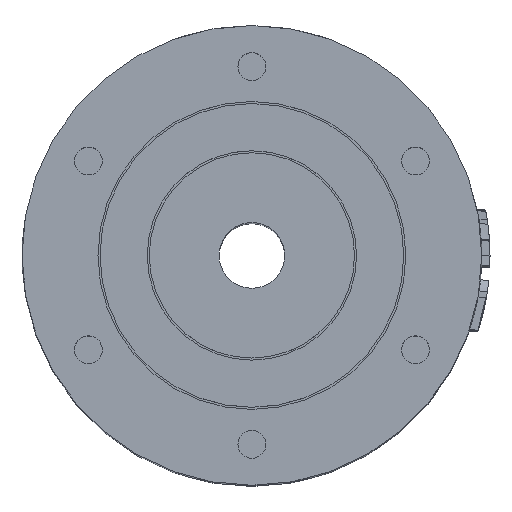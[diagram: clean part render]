
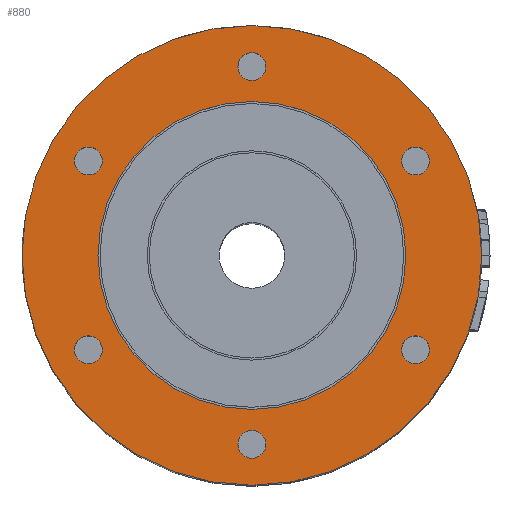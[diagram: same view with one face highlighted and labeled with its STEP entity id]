
A CAD part, top view. The second image highlights one B-rep face of the part: STEP entity #880.
In plain terms, the highlighted planar face has unit normal (0, 0, 1).
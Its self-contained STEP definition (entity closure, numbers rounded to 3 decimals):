
#174=FACE_BOUND('',#1803,.T.);
#175=FACE_BOUND('',#1804,.T.);
#176=FACE_BOUND('',#1805,.T.);
#177=FACE_BOUND('',#1806,.T.);
#178=FACE_BOUND('',#1807,.T.);
#179=FACE_BOUND('',#1808,.T.);
#180=FACE_BOUND('',#1809,.T.);
#181=FACE_BOUND('',#1810,.T.);
#368=CIRCLE('',#7002,28.);
#386=CIRCLE('',#7031,1.7);
#387=CIRCLE('',#7033,1.7);
#388=CIRCLE('',#7035,1.7);
#389=CIRCLE('',#7037,1.7);
#390=CIRCLE('',#7039,1.7);
#391=CIRCLE('',#7041,1.7);
#393=CIRCLE('',#7047,18.75);
#563=PLANE('',#7048);
#880=ADVANCED_FACE('',(#174,#175,#176,#177,#178,#179,#180,#181),#563,.F.);
#1803=EDGE_LOOP('',(#3845));
#1804=EDGE_LOOP('',(#3846));
#1805=EDGE_LOOP('',(#3847));
#1806=EDGE_LOOP('',(#3848));
#1807=EDGE_LOOP('',(#3849));
#1808=EDGE_LOOP('',(#3850));
#1809=EDGE_LOOP('',(#3851));
#1810=EDGE_LOOP('',(#3852));
#3845=ORIENTED_EDGE('',*,*,#5785,.T.);
#3846=ORIENTED_EDGE('',*,*,#5783,.F.);
#3847=ORIENTED_EDGE('',*,*,#5782,.F.);
#3848=ORIENTED_EDGE('',*,*,#5781,.F.);
#3849=ORIENTED_EDGE('',*,*,#5780,.F.);
#3850=ORIENTED_EDGE('',*,*,#5779,.F.);
#3851=ORIENTED_EDGE('',*,*,#5778,.F.);
#3852=ORIENTED_EDGE('',*,*,#5756,.F.);
#4871=VERTEX_POINT('',#14874);
#4893=VERTEX_POINT('',#14929);
#4894=VERTEX_POINT('',#14932);
#4895=VERTEX_POINT('',#14935);
#4896=VERTEX_POINT('',#14938);
#4897=VERTEX_POINT('',#14941);
#4898=VERTEX_POINT('',#14944);
#4900=VERTEX_POINT('',#14952);
#5756=EDGE_CURVE('',#4871,#4871,#368,.T.);
#5778=EDGE_CURVE('',#4893,#4893,#386,.T.);
#5779=EDGE_CURVE('',#4894,#4894,#387,.T.);
#5780=EDGE_CURVE('',#4895,#4895,#388,.T.);
#5781=EDGE_CURVE('',#4896,#4896,#389,.T.);
#5782=EDGE_CURVE('',#4897,#4897,#390,.T.);
#5783=EDGE_CURVE('',#4898,#4898,#391,.T.);
#5785=EDGE_CURVE('',#4900,#4900,#393,.T.);
#7002=AXIS2_PLACEMENT_3D('',#14873,#8021,#8022);
#7031=AXIS2_PLACEMENT_3D('',#14928,#8083,#8084);
#7033=AXIS2_PLACEMENT_3D('',#14931,#8087,#8088);
#7035=AXIS2_PLACEMENT_3D('',#14934,#8091,#8092);
#7037=AXIS2_PLACEMENT_3D('',#14937,#8095,#8096);
#7039=AXIS2_PLACEMENT_3D('',#14940,#8099,#8100);
#7041=AXIS2_PLACEMENT_3D('',#14943,#8103,#8104);
#7047=AXIS2_PLACEMENT_3D('',#14951,#8115,#8116);
#7048=AXIS2_PLACEMENT_3D('',#14953,#8117,#8118);
#8021=DIRECTION('',(0.,0.,-1.));
#8022=DIRECTION('',(-1.,0.,0.));
#8083=DIRECTION('',(0.,0.,1.));
#8084=DIRECTION('',(1.,0.,0.));
#8087=DIRECTION('',(0.,0.,1.));
#8088=DIRECTION('',(1.,0.,0.));
#8091=DIRECTION('',(0.,0.,1.));
#8092=DIRECTION('',(1.,0.,0.));
#8095=DIRECTION('',(0.,0.,1.));
#8096=DIRECTION('',(1.,0.,0.));
#8099=DIRECTION('',(0.,0.,1.));
#8100=DIRECTION('',(1.,0.,0.));
#8103=DIRECTION('',(0.,0.,1.));
#8104=DIRECTION('',(1.,0.,0.));
#8115=DIRECTION('',(0.,0.,-1.));
#8116=DIRECTION('',(-1.,0.,0.));
#8117=DIRECTION('',(0.,0.,-1.));
#8118=DIRECTION('',(-1.,0.,0.));
#14873=CARTESIAN_POINT('',(-12.915,-225.463,80.));
#14874=CARTESIAN_POINT('',(-40.915,-225.463,80.));
#14928=CARTESIAN_POINT('',(7.003,-213.963,80.));
#14929=CARTESIAN_POINT('',(8.703,-213.963,80.));
#14931=CARTESIAN_POINT('',(-32.834,-213.963,80.));
#14932=CARTESIAN_POINT('',(-31.134,-213.963,80.));
#14934=CARTESIAN_POINT('',(7.003,-236.963,80.));
#14935=CARTESIAN_POINT('',(8.703,-236.963,80.));
#14937=CARTESIAN_POINT('',(-12.915,-202.463,80.));
#14938=CARTESIAN_POINT('',(-11.215,-202.463,80.));
#14940=CARTESIAN_POINT('',(-12.915,-248.463,80.));
#14941=CARTESIAN_POINT('',(-11.215,-248.463,80.));
#14943=CARTESIAN_POINT('',(-32.834,-236.963,80.));
#14944=CARTESIAN_POINT('',(-31.134,-236.963,80.));
#14951=CARTESIAN_POINT('',(-12.915,-225.463,80.));
#14952=CARTESIAN_POINT('',(-31.665,-225.463,80.));
#14953=CARTESIAN_POINT('',(-12.915,-225.463,80.));
